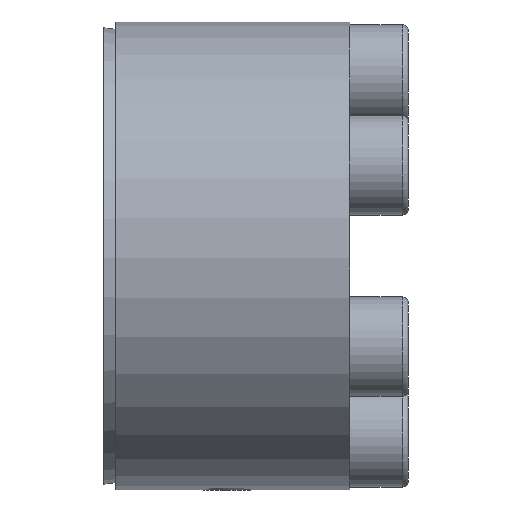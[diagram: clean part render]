
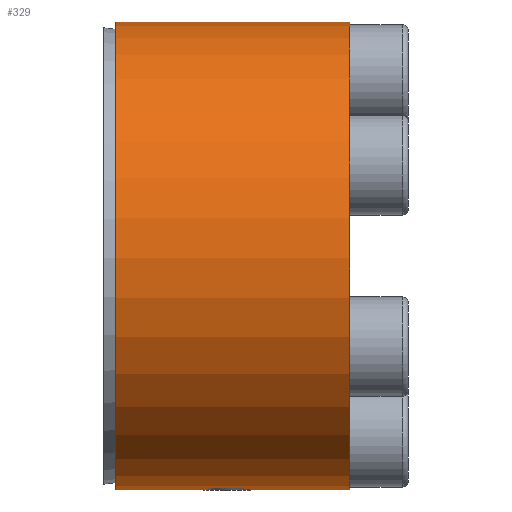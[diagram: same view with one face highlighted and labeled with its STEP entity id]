
A CAD part, left-side view. The second image highlights one B-rep face of the part: STEP entity #329.
In plain terms, the highlighted cylindrical face has radius 20 mm (diameter 40 mm), a partial arc.
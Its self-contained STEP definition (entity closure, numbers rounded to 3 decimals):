
#329 = ADVANCED_FACE( '', ( #514 ), #515, .T. );
#514 = FACE_OUTER_BOUND( '', #616, .T. );
#515 = CYLINDRICAL_SURFACE( '', #617, 20. );
#616 = EDGE_LOOP( '', ( #783, #784, #785, #786 ) );
#617 = AXIS2_PLACEMENT_3D( '', #787, #788, #789 );
#783 = ORIENTED_EDGE( '', *, *, #986, .T. );
#784 = ORIENTED_EDGE( '', *, *, #990, .T. );
#785 = ORIENTED_EDGE( '', *, *, #981, .T. );
#786 = ORIENTED_EDGE( '', *, *, #969, .T. );
#787 = CARTESIAN_POINT( '', ( 0., -60., 0. ) );
#788 = DIRECTION( '', ( 0., -1., 0. ) );
#789 = DIRECTION( '', ( 0., 0., 1. ) );
#969 = EDGE_CURVE( '', #1070, #1068, #1071, .T. );
#981 = EDGE_CURVE( '', #1092, #1070, #1093, .T. );
#986 = EDGE_CURVE( '', #1068, #1098, #1100, .T. );
#990 = EDGE_CURVE( '', #1098, #1092, #1105, .F. );
#1068 = VERTEX_POINT( '', #1139 );
#1070 = VERTEX_POINT( '', #1142 );
#1071 = LINE( '', #1143, #1144 );
#1092 = VERTEX_POINT( '', #1172 );
#1093 = CIRCLE( '', #1173, 20. );
#1098 = VERTEX_POINT( '', #1182 );
#1100 = CIRCLE( '', #1185, 20. );
#1105 = LINE( '', #1192, #1193 );
#1139 = CARTESIAN_POINT( '', ( 9.564, 9.5, 17.565 ) );
#1142 = CARTESIAN_POINT( '', ( 9.564, -10.5, 17.565 ) );
#1143 = CARTESIAN_POINT( '', ( 9.564, -60., 17.565 ) );
#1144 = VECTOR( '', #1223, 1000. );
#1172 = CARTESIAN_POINT( '', ( 10.43, -10.5, 17.065 ) );
#1173 = AXIS2_PLACEMENT_3D( '', #1249, #1250, #1251 );
#1182 = CARTESIAN_POINT( '', ( 10.43, 9.5, 17.065 ) );
#1185 = AXIS2_PLACEMENT_3D( '', #1257, #1258, #1259 );
#1192 = CARTESIAN_POINT( '', ( 10.43, -60., 17.065 ) );
#1193 = VECTOR( '', #1265, 1000. );
#1223 = DIRECTION( '', ( 0., 1., 0. ) );
#1249 = CARTESIAN_POINT( '', ( 0., -10.5, 0. ) );
#1250 = DIRECTION( '', ( 0., 1., 0. ) );
#1251 = DIRECTION( '', ( 0., 0., 1. ) );
#1257 = CARTESIAN_POINT( '', ( 0., 9.5, 0. ) );
#1258 = DIRECTION( '', ( 0., -1., 0. ) );
#1259 = DIRECTION( '', ( 0., 0., -1. ) );
#1265 = DIRECTION( '', ( 0., 1., 0. ) );
